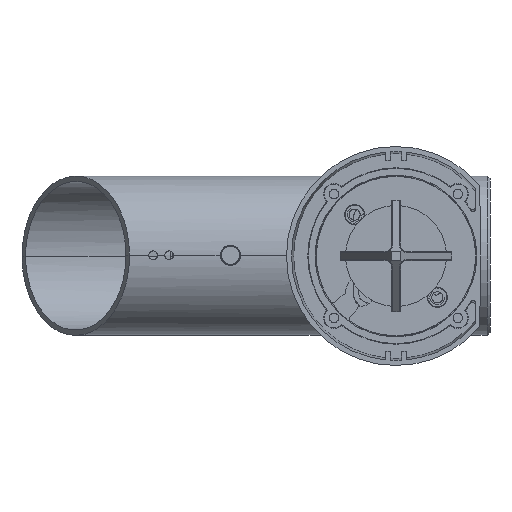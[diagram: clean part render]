
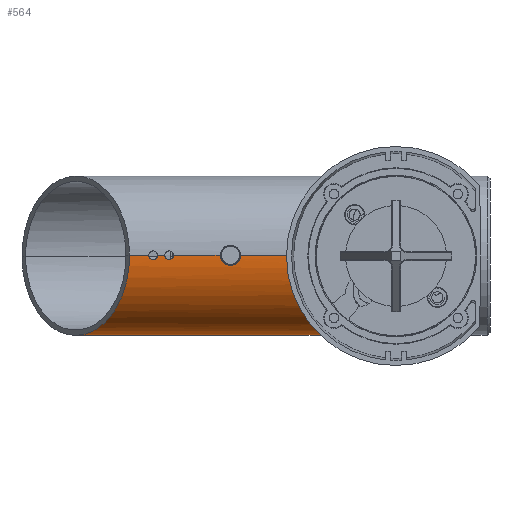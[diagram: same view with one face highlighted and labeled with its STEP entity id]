
A CAD part, front view. The second image highlights one B-rep face of the part: STEP entity #564.
In plain terms, the highlighted cylindrical face has radius 30 mm (diameter 60 mm), a partial arc.
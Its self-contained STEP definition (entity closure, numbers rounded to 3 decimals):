
#30=DIRECTION('',(0.,0.,-1.));
#31=VECTOR('',#30,58.85);
#32=CARTESIAN_POINT('',(30.,0.,139.));
#33=LINE('',#32,#31);
#46=CARTESIAN_POINT('',(30.,0.,76.85));
#48=DIRECTION('',(0.,0.,-1.));
#49=VECTOR('',#48,19.8);
#50=CARTESIAN_POINT('',(30.,0.,76.85));
#51=LINE('',#50,#49);
#64=CARTESIAN_POINT('',(30.,0.,53.75));
#66=DIRECTION('',(0.,0.,-1.));
#67=VECTOR('',#66,2.7);
#68=CARTESIAN_POINT('',(30.,0.,53.75));
#69=LINE('',#68,#67);
#70=CARTESIAN_POINT('',(30.,0.,51.05));
#82=CARTESIAN_POINT('',(30.,0.,47.75));
#84=DIRECTION('',(0.,0.,-1.));
#85=VECTOR('',#84,7.279);
#86=CARTESIAN_POINT('',(30.,0.,47.75));
#87=LINE('',#86,#85);
#88=DIRECTION('',(0.,0.,-1.));
#89=VECTOR('',#88,139.);
#90=CARTESIAN_POINT('',(-30.,0.,139.));
#91=LINE('',#90,#89);
#92=CARTESIAN_POINT('',(30.,0.,47.75));
#93=CARTESIAN_POINT('',(30.,0.179,47.75));
#94=CARTESIAN_POINT('',(29.997,0.518,47.806));
#95=CARTESIAN_POINT('',(29.985,0.986,48.043));
#96=CARTESIAN_POINT('',(29.97,1.355,48.412));
#97=CARTESIAN_POINT('',(29.958,1.592,48.872));
#98=CARTESIAN_POINT('',(29.953,1.678,49.389));
#99=CARTESIAN_POINT('',(29.958,1.597,49.909));
#100=CARTESIAN_POINT('',(29.969,1.366,50.372));
#101=CARTESIAN_POINT('',(29.984,0.998,50.749));
#102=CARTESIAN_POINT('',(29.997,0.528,50.992));
#103=CARTESIAN_POINT('',(30.,0.183,51.05));
#104=CARTESIAN_POINT('',(30.,0.,51.05));
#106=CARTESIAN_POINT('',(30.,0.,53.75));
#107=CARTESIAN_POINT('',(30.,0.179,53.75));
#108=CARTESIAN_POINT('',(29.997,0.518,53.806));
#109=CARTESIAN_POINT('',(29.985,0.986,54.043));
#110=CARTESIAN_POINT('',(29.97,1.355,54.412));
#111=CARTESIAN_POINT('',(29.958,1.592,54.872));
#112=CARTESIAN_POINT('',(29.953,1.678,55.389));
#113=CARTESIAN_POINT('',(29.958,1.597,55.909));
#114=CARTESIAN_POINT('',(29.969,1.366,56.372));
#115=CARTESIAN_POINT('',(29.984,0.998,56.749));
#116=CARTESIAN_POINT('',(29.997,0.528,56.992));
#117=CARTESIAN_POINT('',(30.,0.183,57.05));
#118=CARTESIAN_POINT('',(30.,0.,57.05));
#120=CARTESIAN_POINT('',(30.,0.,76.85));
#121=CARTESIAN_POINT('',(30.,0.179,76.85));
#122=CARTESIAN_POINT('',(29.997,0.518,76.906));
#123=CARTESIAN_POINT('',(29.985,0.986,77.143));
#124=CARTESIAN_POINT('',(29.97,1.355,77.512));
#125=CARTESIAN_POINT('',(29.958,1.592,77.972));
#126=CARTESIAN_POINT('',(29.953,1.678,78.489));
#127=CARTESIAN_POINT('',(29.958,1.597,79.009));
#128=CARTESIAN_POINT('',(29.969,1.366,79.472));
#129=CARTESIAN_POINT('',(29.984,0.998,79.849));
#130=CARTESIAN_POINT('',(29.997,0.528,80.092));
#131=CARTESIAN_POINT('',(30.,0.183,80.15));
#132=CARTESIAN_POINT('',(30.,0.,80.15));
#138=CARTESIAN_POINT('',(0.,0.,139.));
#139=DIRECTION('',(0.,0.,-1.));
#140=DIRECTION('',(-1.,0.,0.));
#141=AXIS2_PLACEMENT_3D('',#138,#139,#140);
#333=CARTESIAN_POINT('',(-30.,0.,0.));
#353=CARTESIAN_POINT('',(30.,0.,40.471));
#354=CARTESIAN_POINT('',(30.,3.536,40.471));
#355=CARTESIAN_POINT('',(29.029,9.261,39.816));
#356=CARTESIAN_POINT('',(25.299,16.514,37.3));
#357=CARTESIAN_POINT('',(21.367,21.366,34.647));
#358=CARTESIAN_POINT('',(16.514,25.3,31.374));
#359=CARTESIAN_POINT('',(11.076,28.094,27.706));
#360=CARTESIAN_POINT('',(6.379,29.421,24.538));
#361=CARTESIAN_POINT('',(2.68,29.922,22.043));
#362=CARTESIAN_POINT('',(0.,30.039,
20.235));
#363=CARTESIAN_POINT('',(-2.68,29.922,18.428));
#364=CARTESIAN_POINT('',(-6.379,29.421,15.933));
#365=CARTESIAN_POINT('',(-11.076,28.094,12.764));
#366=CARTESIAN_POINT('',(-16.514,25.3,9.097));
#367=CARTESIAN_POINT('',(-21.367,21.366,5.823));
#368=CARTESIAN_POINT('',(-25.299,16.514,3.171));
#369=CARTESIAN_POINT('',(-29.029,9.261,0.655));
#370=CARTESIAN_POINT('',(-30.,3.536,0.));
#371=CARTESIAN_POINT('',(-30.,0.,0.));
#423=VERTEX_POINT('',#70);
#424=VERTEX_POINT('',#82);
#428=CARTESIAN_POINT('',(30.,0.,139.));
#429=CARTESIAN_POINT('',(30.,0.,80.15));
#430=VERTEX_POINT('',#428);
#431=VERTEX_POINT('',#429);
#432=VERTEX_POINT('',#46);
#433=CARTESIAN_POINT('',(30.,0.,57.05));
#434=VERTEX_POINT('',#433);
#435=VERTEX_POINT('',#64);
#436=CARTESIAN_POINT('',(30.,0.,40.471));
#437=VERTEX_POINT('',#436);
#438=VERTEX_POINT('',#333);
#439=CARTESIAN_POINT('',(-30.,0.,139.));
#440=VERTEX_POINT('',#439);
#542=CARTESIAN_POINT('',(0.,0.,139.));
#543=DIRECTION('',(0.,0.,-1.));
#544=DIRECTION('',(-1.,0.,0.));
#545=AXIS2_PLACEMENT_3D('',#542,#543,#544);
#546=CYLINDRICAL_SURFACE('',#545,30.);
#548=ORIENTED_EDGE('',*,*,#547,.F.);
#549=ORIENTED_EDGE('',*,*,#535,.T.);
#551=ORIENTED_EDGE('',*,*,#550,.F.);
#552=ORIENTED_EDGE('',*,*,#531,.F.);
#554=ORIENTED_EDGE('',*,*,#553,.T.);
#555=ORIENTED_EDGE('',*,*,#528,.F.);
#557=ORIENTED_EDGE('',*,*,#556,.T.);
#558=ORIENTED_EDGE('',*,*,#524,.F.);
#560=ORIENTED_EDGE('',*,*,#559,.T.);
#561=ORIENTED_EDGE('',*,*,#520,.F.);
#562=EDGE_LOOP('',(#548,#549,#551,#552,#554,#555,#557,#558,#560,#561));
#563=FACE_OUTER_BOUND('',#562,.F.);
#564=ADVANCED_FACE('',(#563),#546,.T.);
#105=B_SPLINE_CURVE_WITH_KNOTS('',3,(#92,#93,#94,#95,#96,#97,#98,#99,#100,#101,
#102,#103,#104),.UNSPECIFIED.,.F.,.F.,(4,1,1,1,1,1,1,1,1,1,4),(0.,0.1,0.2,
0.3,0.4,0.5,0.6,0.7,0.8,0.9,1.),.UNSPECIFIED.);
#119=B_SPLINE_CURVE_WITH_KNOTS('',3,(#106,#107,#108,#109,#110,#111,#112,#113,
#114,#115,#116,#117,#118),.UNSPECIFIED.,.F.,.F.,(4,1,1,1,1,1,1,1,1,1,4),(0.,
0.1,0.2,0.3,0.4,0.5,0.6,0.7,0.8,0.9,1.),.UNSPECIFIED.);
#133=B_SPLINE_CURVE_WITH_KNOTS('',3,(#120,#121,#122,#123,#124,#125,#126,#127,
#128,#129,#130,#131,#132),.UNSPECIFIED.,.F.,.F.,(4,1,1,1,1,1,1,1,1,1,4),(0.,
0.1,0.2,0.3,0.4,0.5,0.6,0.7,0.8,0.9,1.),.UNSPECIFIED.);
#142=CIRCLE('',#141,30.);
#372=B_SPLINE_CURVE_WITH_KNOTS('',3,(#353,#354,#355,#356,#357,#358,#359,#360,
#361,#362,#363,#364,#365,#366,#367,#368,#369,#370,#371),.UNSPECIFIED.,.F.,.F.,
(4,1,1,1,1,1,1,1,1,1,1,1,1,1,1,1,4),(0.,0.125,0.188,0.25,0.313,
0.375,0.438,0.469,0.5,0.531,0.563,0.625,0.688,0.75,
0.813,0.875,1.),.UNSPECIFIED.);
#520=EDGE_CURVE('',#430,#431,#33,.T.);
#524=EDGE_CURVE('',#432,#434,#51,.T.);
#528=EDGE_CURVE('',#435,#423,#69,.T.);
#531=EDGE_CURVE('',#424,#437,#87,.T.);
#535=EDGE_CURVE('',#440,#438,#91,.T.);
#547=EDGE_CURVE('',#440,#430,#142,.T.);
#550=EDGE_CURVE('',#437,#438,#372,.T.);
#553=EDGE_CURVE('',#424,#423,#105,.T.);
#556=EDGE_CURVE('',#435,#434,#119,.T.);
#559=EDGE_CURVE('',#432,#431,#133,.T.);
